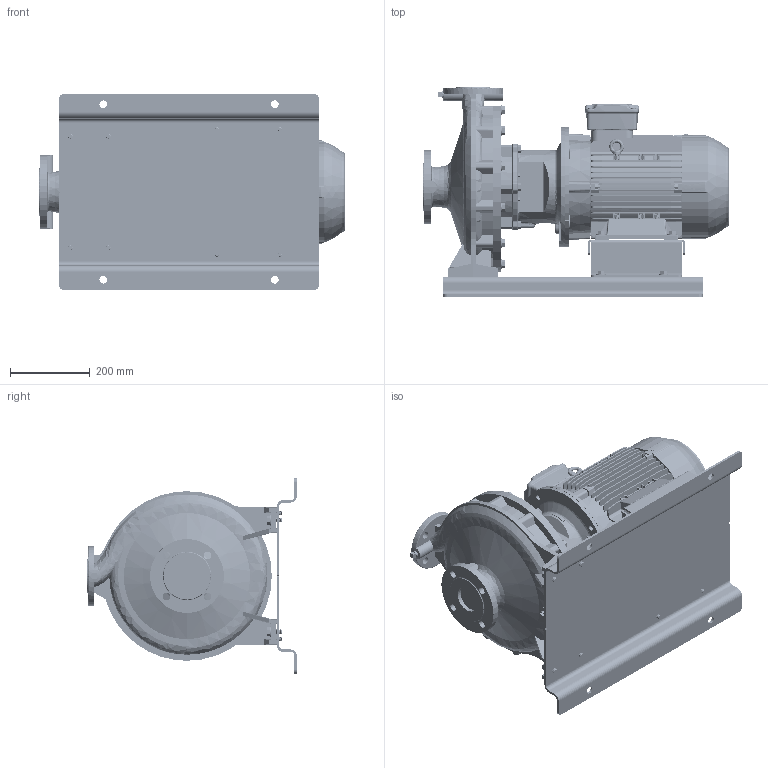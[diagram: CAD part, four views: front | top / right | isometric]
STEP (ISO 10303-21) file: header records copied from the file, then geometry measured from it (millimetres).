
FILE_DESCRIPTION (( 'STEP AP214' ), '1' );
FILE_NAME ('GSD4 40-315_7.5_(132M)_W21_BP.STEP', '2024-08-12T05:16:01', ( '' ), ( '' ), 'SwSTEP 2.0', 'SolidWorks 2019', '' );
FILE_SCHEMA (( 'AUTOMOTIVE_DESIGN' ));
Length unit declared in the file: millimetre
Products named in the file (22): Parametric bolt and washer_SFT-A299B; Parametric bolt and washer_SFT-A253B; Parametric bolt and washer_SFT-A249B; Parametric bolt_SFT-A249B; Parametric bolt_SFT-A299B; Parametric bolt_SFT-A253B; GSD4 40-315_7.5_(132M)_W21_BP; Parametric Flat Washer_M10; Parametric Flat Washer_M12; N5S5 GSDA-558 F1-1832921-00; 140_178 x 93 BP - CGSDA-5244; 40-315-132M_______; 132M ALIE3_W21T_B35
Assembly tree (40 placements, depth 3):
  GSD4 40-315_7.5_(132M)_W21_BP
    40-315-132M_______
    N5S5 GSDA-558 F1-1832921-00
    140_178 x 93 BP - CGSDA-5244
    Parametric bolt and washer_SFT-A249B
      Parametric bolt_SFT-A249B
      Parametric Flat Washer_M10
    Parametric bolt and washer_SFT-A249B
      Parametric bolt_SFT-A249B
      Parametric Flat Washer_M10
    Parametric bolt and washer_SFT-A249B
      Parametric bolt_SFT-A249B
      Parametric Flat Washer_M10
    Parametric bolt and washer_SFT-A249B
      Parametric bolt_SFT-A249B
      Parametric Flat Washer_M10
    Parametric bolt and washer_SFT-A253B
      Parametric bolt_SFT-A253B
      Parametric Flat Washer_M10
    Parametric bolt and washer_SFT-A253B
      Parametric bolt_SFT-A253B
      Parametric Flat Washer_M10
    Parametric bolt and washer_SFT-A253B
      Parametric bolt_SFT-A253B
      Parametric Flat Washer_M10
    Parametric bolt and washer_SFT-A253B
      Parametric bolt_SFT-A253B
      Parametric Flat Washer_M10
    Parametric bolt and washer_SFT-A299B
      Parametric bolt_SFT-A299B
      Parametric Flat Washer_M12
    Parametric bolt and washer_SFT-A299B
      Parametric bolt_SFT-A299B
      Parametric Flat Washer_M12
    Parametric bolt and washer_SFT-A299B
      Parametric bolt_SFT-A299B
      Parametric Flat Washer_M12
    Parametric bolt and washer_SFT-A299B
      Parametric bolt_SFT-A299B
      Parametric Flat Washer_M12
    132M ALIE3_W21T_B35
Bounding box: 764.8 x 525 x 490 mm (x, y, z)
Volume: 38032593.9 mm3; surface area: 3182577.9 mm2
Topology: 32 solids, 32 shells, 5419 faces, 14093 edges, 9073 vertices
Faces by surface type: plane 3096, cylinder 1378, torus 318, bspline 301, cone 294, sphere 32
Entity records: 224472 total; most frequent: CARTESIAN_POINT 67660, ORIENTED_EDGE 25604, DIRECTION 22945, EDGE_CURVE 12802, VERTEX_POINT 8257, VECTOR 8247, LINE 8247, AXIS2_PLACEMENT_3D 7349
